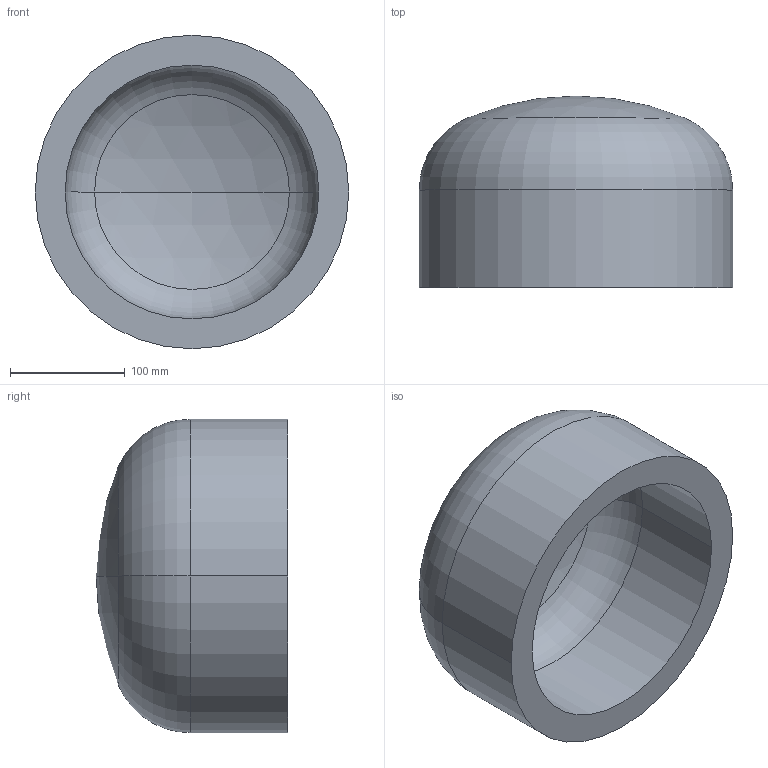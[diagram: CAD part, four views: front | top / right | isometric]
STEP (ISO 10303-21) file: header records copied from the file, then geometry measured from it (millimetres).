
FILE_DESCRIPTION (( 'STEP AP203' ), '1' );
FILE_NAME ('DIN 28013 Korbbogenform_-_Boden DIN 28013 - 273 x 85 - I - s=26.step', '2016-07-01T07:43:42', ( '' ), ( '' ), 'SwSTEP 2.0', 'SolidWorks 2013', '' );
FILE_SCHEMA (( 'CONFIG_CONTROL_DESIGN' ));
Length unit declared in the file: millimetre
Products named in the file (1): DIN 28013 Korbbogenform_-_Boden DIN 28013 - 273 x 85 - I - s=26
Bounding box: 273 x 166.88 x 273 mm (x, y, z)
Volume: 3587383 mm3; surface area: 297543.6 mm2
Topology: 1 solids, 1 shells, 13 faces, 24 edges, 14 vertices
Faces by surface type: torus 4, cylinder 4, sphere 4, plane 1
Entity records: 407 total; most frequent: DIRECTION 72, CARTESIAN_POINT 52, ORIENTED_EDGE 48, AXIS2_PLACEMENT_3D 34, EDGE_CURVE 24, CIRCLE 20, EDGE_LOOP 14, VERTEX_POINT 14
